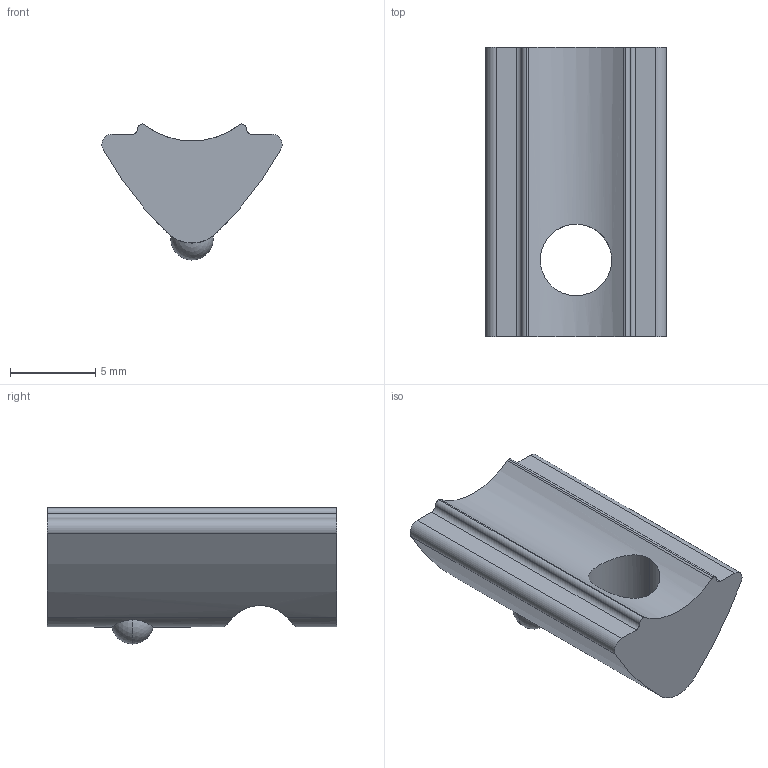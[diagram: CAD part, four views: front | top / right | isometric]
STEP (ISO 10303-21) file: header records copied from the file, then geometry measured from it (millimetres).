
FILE_DESCRIPTION (( 'STEP AP203' ), '1' );
FILE_NAME ('354025_Nutenstein 6 M5 einschwenkbar mit Kugel und Steg.step', '2022-11-24T12:46:11', ( '' ), ( '' ), 'SwSTEP 2.0', 'SolidWorks 2021', '' );
FILE_SCHEMA (( 'CONFIG_CONTROL_DESIGN' ));
Length unit declared in the file: millimetre
Products named in the file (1): 354025_Nutenstein 6 M5 einschwenkbar mit Kugel und Steg
Bounding box: 10.6 x 17 x 8 mm (x, y, z)
Volume: 689 mm3; surface area: 625.5 mm2
Topology: 1 solids, 1 shells, 21 faces, 58 edges, 39 vertices
Faces by surface type: cylinder 15, plane 4, sphere 2
Entity records: 917 total; most frequent: CARTESIAN_POINT 289, DIRECTION 118, ORIENTED_EDGE 116, EDGE_CURVE 58, AXIS2_PLACEMENT_3D 48, VERTEX_POINT 39, CIRCLE 26, EDGE_LOOP 23
